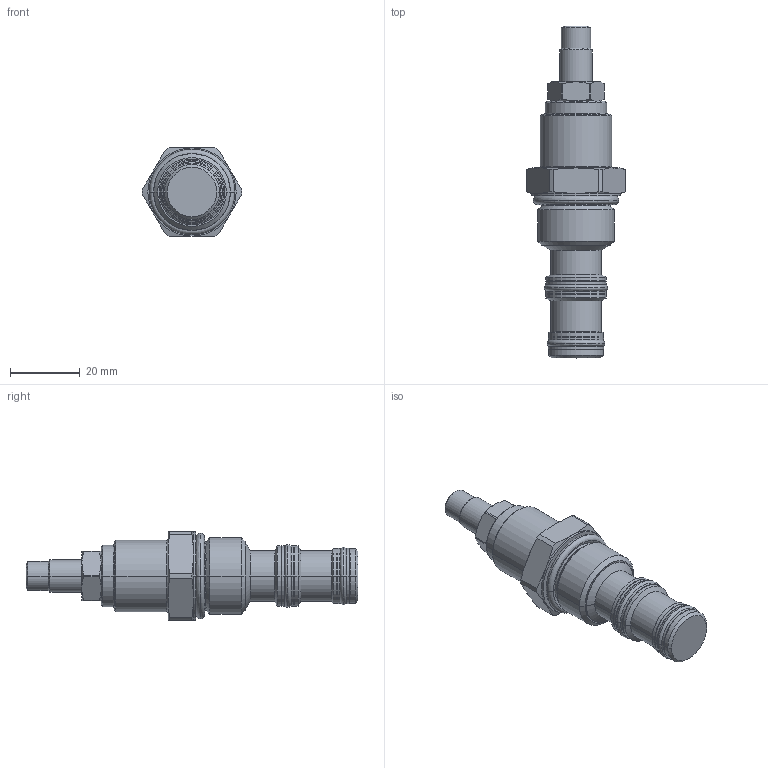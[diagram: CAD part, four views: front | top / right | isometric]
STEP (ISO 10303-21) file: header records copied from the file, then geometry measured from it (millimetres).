
FILE_DESCRIPTION((''),'2;1');
FILE_NAME('5413800_SW0003','2009-05-22T',('jcs'),(''),'PRO/ENGINEER BY PARAMETRIC TECHNOLOGY CORPORATION, 2008510','PRO/ENGINEER BY PARAMETRIC TECHNOLOGY CORPORATION, 2008510','');
FILE_SCHEMA(('CONFIG_CONTROL_DESIGN'));
Length unit declared in the file: inch
Products named in the file (1): 5413800_SW0003
Bounding box: 28.57 x 95.42 x 25.4 mm (x, y, z)
Volume: 23851.8 mm3; surface area: 8476.7 mm2
Topology: 5 solids, 5 shells, 216 faces, 474 edges, 273 vertices
Faces by surface type: cylinder 62, cone 52, plane 46, torus 32, revolution 24
Entity records: 6588 total; most frequent: CARTESIAN_POINT 1781, DIRECTION 1060, ORIENTED_EDGE 944, EDGE_CURVE 472, AXIS2_PLACEMENT_3D 448, VERTEX_POINT 273, CIRCLE 256, EDGE_LOOP 231
